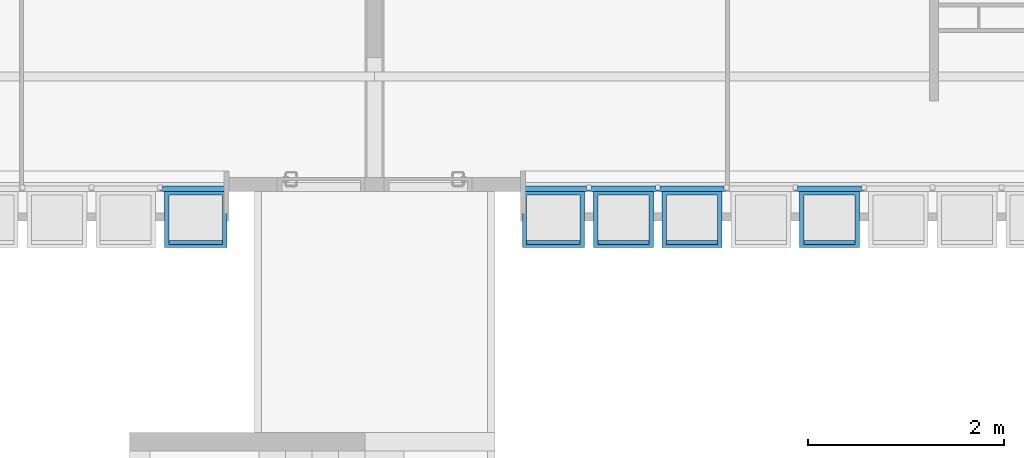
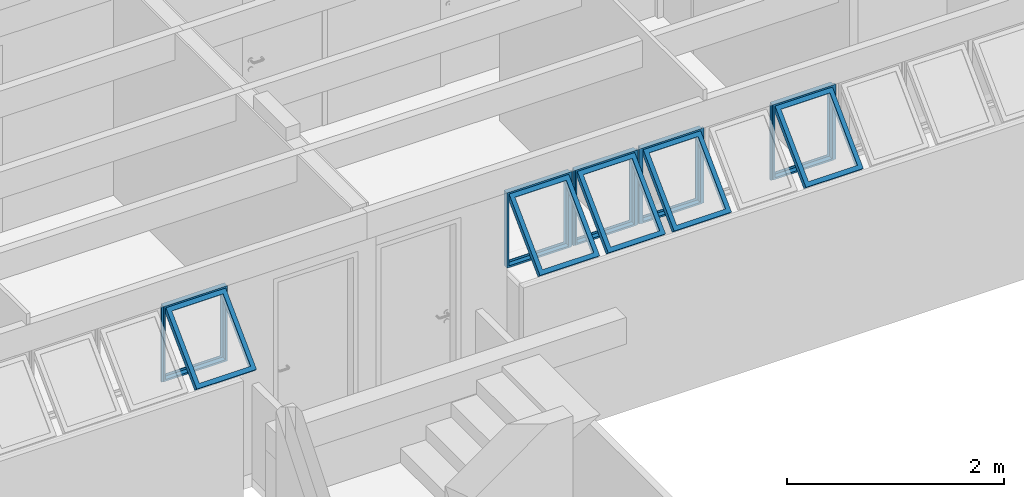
# One storey, part 31 of 37: 5 building element parts, 7 elements without a shape of their own.
"""IFC2X3 building model written with IfcOpenShell, lengths in millimetres."""

import ifcopenshell
import ifcopenshell.guid

model = None  # the IFC model being written
_history = None  # IfcOwnerHistory: only IFC2X3 demands one
_inside = {}  # id of a spatial element -> (the spatial element, [elements in it])
_under = {}  # id of a project, library or spatial element -> (it, [spatial elements below it])
_declared = {}  # id of a project -> (the project, [libraries it declares])
_typed = {}  # id of a type object -> (the type object, [elements of that type])
_made_of = {}  # id of a material, layer set ... -> (it, [elements and type objects made of it])


def new_model(schema):
    """Start an empty IFC model of exactly this schema.

    Asked for "IFC4X3", IfcOpenShell would pick the latest addendum, in which some entities
    have other attributes; the version numbers below select the first issue.
    IFC2X3 requires an IfcOwnerHistory on every rooted entity: one is made here for all.
    """
    global model, _history
    if schema == "IFC4X3":
        model = ifcopenshell.file(schema_version=(4, 3, 0, 0))
    else:
        model = ifcopenshell.file(schema=schema)
    _inside.clear()
    _under.clear()
    _declared.clear()
    _typed.clear()
    _made_of.clear()
    _history = None
    if model.schema == "IFC2X3":
        org = make("IfcOrganization", Name="unknown")
        user = make(
            "IfcPersonAndOrganization",
            ThePerson=make("IfcPerson", FamilyName="unknown"),
            TheOrganization=org,
        )
        app = make(
            "IfcApplication",
            ApplicationDeveloper=org,
            Version="unknown",
            ApplicationFullName="unknown",
            ApplicationIdentifier="unknown",
        )
        _history = make(
            "IfcOwnerHistory",
            OwningUser=user,
            OwningApplication=app,
            ChangeAction="ADDED",
            CreationDate=0,
        )
    return model


def make(cls, **values):
    """One entity of the class cls with the attributes given. An attribute that is None is left unset."""
    return model.create_entity(
        cls, **{name: value for name, value in values.items() if value is not None}
    )


def entity(cls, *values):
    """Any entity or typed value of the class cls, its attributes in the order of the schema. None: left unset."""
    e = model.create_entity(cls)
    for i, value in enumerate(values):
        if value is not None:
            e[i] = value
    return e


def rooted(cls, **values):
    """An entity with a GlobalId (a new one), such as an element, a storey or a relation."""
    return make(cls, GlobalId=ifcopenshell.guid.new(), OwnerHistory=_history, **values)


def si_unit(unit_type, name, prefix=None):
    """IfcSIUnit, for example si_unit("LENGTHUNIT", "METRE", prefix="MILLI")."""
    return make("IfcSIUnit", UnitType=unit_type, Prefix=prefix, Name=name)


def converted_unit(unit_type, name, factor, base, dimensions=None, offset=None):
    """IfcConversionBasedUnit, such as the inch: factor (a typed value) times the base unit."""
    return make(
        "IfcConversionBasedUnit"
        if offset is None
        else "IfcConversionBasedUnitWithOffset",
        ConversionOffset=offset,
        Dimensions=None
        if dimensions is None
        else entity("IfcDimensionalExponents", *dimensions),
        UnitType=unit_type,
        Name=name,
        ConversionFactor=make(
            "IfcMeasureWithUnit", ValueComponent=factor, UnitComponent=base
        ),
    )


def derived_unit(unit_type, elements):
    """IfcDerivedUnit: a product of units, each with its exponent."""
    return make(
        "IfcDerivedUnit",
        Elements=[
            make("IfcDerivedUnitElement", Unit=unit, Exponent=power)
            for unit, power in elements
        ],
        UnitType=unit_type,
    )


def money_unit(currency):
    """IfcMonetaryUnit."""
    return make("IfcMonetaryUnit", Currency=currency)


def assignment(units):
    """IfcUnitAssignment: the units of a project."""
    return None if units is None else make("IfcUnitAssignment", Units=units)


def point(xyz):
    """IfcCartesianPoint."""
    return None if xyz is None else make("IfcCartesianPoint", Coordinates=xyz)


def direction(xyz):
    """IfcDirection."""
    return None if xyz is None else make("IfcDirection", DirectionRatios=xyz)


def frame(location, z_axis=None, x_axis=None):
    """IfcAxis2Placement3D, a coordinate frame: its origin and axes. An axis left out is left unset."""
    return make(
        "IfcAxis2Placement3D",
        Location=point(location),
        Axis=direction(z_axis),
        RefDirection=direction(x_axis),
    )


def origin_with_axes():
    """The frame at (0, 0, 0) with the z axis (0, 0, 1) and the x axis (1, 0, 0) written out."""
    return frame((0.0, 0.0, 0.0), z_axis=(0.0, 0.0, 1.0), x_axis=(1.0, 0.0, 0.0))


def place(relative_to, where):
    """IfcLocalPlacement: puts the frame where relative to a parent placement (None: the world)."""
    return make(
        "IfcLocalPlacement", PlacementRelTo=relative_to, RelativePlacement=where
    )


def context(
    kind, dimensions, precision=None, world=None, true_north=None, identifier=None
):
    """IfcGeometricRepresentationContext, for example the 3D "Model" context."""
    return make(
        "IfcGeometricRepresentationContext",
        ContextIdentifier=identifier,
        ContextType=kind,
        CoordinateSpaceDimension=dimensions,
        Precision=precision,
        WorldCoordinateSystem=world,
        TrueNorth=true_north,
    )


def subcontext(parent, identifier, kind, view, scale=None):
    """IfcGeometricRepresentationSubContext, for example "Body" below "Model"."""
    return make(
        "IfcGeometricRepresentationSubContext",
        ContextIdentifier=identifier,
        ContextType=kind,
        ParentContext=parent,
        TargetScale=scale,
        TargetView=view,
    )


def project(units=None, contexts=None):
    """IfcProject with its units and contexts."""
    return rooted(
        "IfcProject",
        Name="project",
        RepresentationContexts=contexts,
        UnitsInContext=assignment(units),
    )


def spatial(cls, under=None, at=None, **own):
    """A site, building, storey or space (cls), placed at a placement, below another one or the project."""
    s = rooted(cls, ObjectPlacement=at, **own)
    if under is not None:
        _under.setdefault(under.id(), (under, []))[1].append(s)
    return s


def faces_of(points, faces, orient=None, outer=None):
    """IfcFace entities. A face is a list of loops; a loop is a list of indices into points, from 0.

    orient and outer hold one flag for each loop. By default every Orientation is true, the
    first loop of a face is its IfcFaceOuterBound and the others are IfcFaceBound.
    """
    made = []
    for i, loops in enumerate(faces):
        bounds = []
        for j, loop in enumerate(loops):
            is_outer = j == 0 if outer is None else outer[i][j]
            bounds.append(
                make(
                    "IfcFaceOuterBound" if is_outer else "IfcFaceBound",
                    Bound=make("IfcPolyLoop", Polygon=[points[k] for k in loop]),
                    Orientation=True if orient is None else orient[i][j],
                )
            )
        made.append(make("IfcFace", Bounds=bounds))
    return made


def faceted_brep(points, faces, orient=None, outer=None, voids=None):
    """IfcFacetedBrep: a solid bounded by flat faces; with voids (closed shells), ...WithVoids."""
    shared = [point(p) for p in points]
    hull = make("IfcClosedShell", CfsFaces=faces_of(shared, faces, orient, outer))
    if voids is None:
        return make("IfcFacetedBrep", Outer=hull)
    return make(
        "IfcFacetedBrepWithVoids",
        Outer=hull,
        Voids=[
            make(cls, CfsFaces=faces_of(shared, fs, o, b)) for cls, fs, o, b in voids
        ],
    )


def shape(context_of_items, identifier, shape_type, items):
    """IfcShapeRepresentation: the items that make up one representation, for example the "Body"."""
    return make(
        "IfcShapeRepresentation",
        ContextOfItems=context_of_items,
        RepresentationIdentifier=identifier,
        RepresentationType=shape_type,
        Items=items,
    )


def source(mapping_origin, context_of_items, identifier, shape_type, items):
    """IfcRepresentationMap: a shape defined once, which mapped items show again and again."""
    return make(
        "IfcRepresentationMap",
        MappingOrigin=mapping_origin,
        MappedRepresentation=shape(context_of_items, identifier, shape_type, items),
    )


def transform(
    local_origin,
    x_axis=None,
    y_axis=None,
    z_axis=None,
    scale=None,
    scale2=None,
    scale3=None,
    uniform=True,
):
    """IfcCartesianTransformationOperator3D, or its non-uniform kind. x_axis, y_axis, z_axis: its Axis1, 2, 3."""
    if uniform:
        return make(
            "IfcCartesianTransformationOperator3D",
            Axis1=direction(x_axis),
            Axis2=direction(y_axis),
            LocalOrigin=point(local_origin),
            Scale=scale,
            Axis3=direction(z_axis),
        )
    return make(
        "IfcCartesianTransformationOperator3DnonUniform",
        Axis1=direction(x_axis),
        Axis2=direction(y_axis),
        LocalOrigin=point(local_origin),
        Scale=scale,
        Axis3=direction(z_axis),
        Scale2=scale2,
        Scale3=scale3,
    )


def mapped(mapping_source, mapping_target):
    """IfcMappedItem: shows the shape of a source again, moved by a transform."""
    return make(
        "IfcMappedItem", MappingSource=mapping_source, MappingTarget=mapping_target
    )


def material(Name=None, Category=None):
    """IfcMaterial."""
    return make("IfcMaterial", Name=Name, Category=Category)


def made_of(thing, what):
    """Note that an element or type object is made of a material, layer set ...; save() writes the relation."""
    if what is not None:
        _made_of.setdefault(what.id(), (what, []))[1].append(thing)
    return thing


def type_object(cls, material=None, **own):
    """A type object (cls), such as IfcWallType, which elements share."""
    return made_of(rooted(cls, **own), material)


def element(
    cls,
    number,
    at=None,
    inside=None,
    cuts=None,
    type_object=None,
    material=None,
    context=None,
    identifier="Body",
    shape_type=None,
    held_by="IfcProductDefinitionShape",
    body=None,
    shapes=None,
    **own,
):
    """One element of the class cls, such as IfcWall. Its Tag is "e" and its number.

    at: its placement. inside: the storey or other place that contains it. cuts: it is an
    opening in that element (IfcRelVoidsElement). A single representation is given by context,
    identifier, shape_type and body (its items); several are given by shapes. held_by: the class
    of the entity that holds the representations. save() writes the other relations.
    """
    e = rooted(cls, Tag="e%d" % number, ObjectPlacement=at, **own)
    if body is not None:
        shapes = [shape(context, identifier, shape_type, body)]
    if shapes is not None:
        e.Representation = make(held_by, Representations=shapes)
    if inside is not None:
        _inside.setdefault(inside.id(), (inside, []))[1].append(e)
    if cuts is not None:
        rooted(
            "IfcRelVoidsElement", RelatingBuildingElement=cuts, RelatedOpeningElement=e
        )
    if type_object is not None:
        _typed.setdefault(type_object.id(), (type_object, []))[1].append(e)
    return made_of(e, material)


def aggregate(whole, parts):
    """IfcRelAggregates: a whole, such as a stair, and the parts it consists of."""
    return rooted("IfcRelAggregates", RelatingObject=whole, RelatedObjects=parts)


def save(model, path):
    """Write the relations noted so far, then the file.

    IfcRelAggregates (storeys below a building ...), IfcRelContainedInSpatialStructure (elements
    in a storey), IfcRelDefinesByType, IfcRelAssociatesMaterial and IfcRelDeclares: one each for
    every whole, place, type object, material and project.
    """
    for whole, parts in _under.values():
        aggregate(whole, parts)
    for where, things in _inside.values():
        rooted(
            "IfcRelContainedInSpatialStructure",
            RelatedElements=things,
            RelatingStructure=where,
        )
    for kind, things in _typed.values():
        rooted("IfcRelDefinesByType", RelatedObjects=things, RelatingType=kind)
    for what, things in _made_of.values():
        rooted("IfcRelAssociatesMaterial", RelatedObjects=things, RelatingMaterial=what)
    for by, libraries in _declared.values():
        rooted("IfcRelDeclares", RelatingContext=by, RelatedDefinitions=libraries)
    model.write(path)


model = new_model("IFC2X3")

# Units and contexts
model_context = context("Model", 3, precision=0.01, world=origin_with_axes(), true_north=direction((0.0, 1.0)))
body_context = subcontext(model_context, "Body", "Model", "MODEL_VIEW")
ifc_project = project(units=[si_unit("LENGTHUNIT", "METRE", prefix="MILLI"), si_unit("AREAUNIT", "SQUARE_METRE"), si_unit("VOLUMEUNIT", "CUBIC_METRE"), converted_unit("PLANEANGLEUNIT", "DEGREE", entity("IfcPlaneAngleMeasure", 0.0174532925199), si_unit("PLANEANGLEUNIT", "RADIAN"), dimensions=[0, 0, 0, 0, 0, 0, 0]), money_unit("USD"), converted_unit("TIMEUNIT", "Year", entity("IfcTimeMeasure", 31556926.0), si_unit("TIMEUNIT", "SECOND"), dimensions=[0, 0, 1, 0, 0, 0, 0]), si_unit("MASSUNIT", "GRAM", prefix="KILO"), si_unit("THERMODYNAMICTEMPERATUREUNIT", "DEGREE_CELSIUS"), si_unit("LUMINOUSINTENSITYUNIT", "LUMEN"), si_unit("ENERGYUNIT", "JOULE", prefix="MEGA"), derived_unit("THERMALCONDUCTANCEUNIT", [(si_unit("POWERUNIT", "WATT"), 1), (si_unit("LENGTHUNIT", "METRE"), -1), (si_unit("THERMODYNAMICTEMPERATUREUNIT", "KELVIN"), -1)]), derived_unit("SPECIFICHEATCAPACITYUNIT", [(si_unit("ENERGYUNIT", "JOULE"), 1), (si_unit("MASSUNIT", "GRAM", prefix="KILO"), -1), (si_unit("THERMODYNAMICTEMPERATUREUNIT", "KELVIN"), -1)]), derived_unit("MASSDENSITYUNIT", [(si_unit("MASSUNIT", "GRAM", prefix="KILO"), 1), (si_unit("VOLUMEUNIT", "CUBIC_METRE"), -1)])], contexts=[model_context])

# Site, building, storey
site_placement = place(None, origin_with_axes())
site = spatial("IfcSite", under=ifc_project, at=site_placement, Name="Local", CompositionType="ELEMENT")
building_placement = place(site_placement, origin_with_axes())
building = spatial("IfcBuilding", under=site, at=building_placement, Name="Construção", CompositionType="ELEMENT")
storey_placement = place(building_placement, origin_with_axes())
storey = spatial("IfcBuildingStorey", under=building, at=storey_placement, Name="Primeiro Pavimento", CompositionType="ELEMENT", Elevation=0.0)

# Window, plates, building element parts
window_style = type_object("IfcWindowStyle", Name="Tipo de Parede Cortina", ConstructionType="NOTDEFINED", OperationType="NOTDEFINED", ParameterTakesPrecedence=False, Sizeable=False)
window_1_placement = place(storey_placement, frame((12020.0, 17910.0, 1355.00007107), z_axis=(0.0, 0.0, 1.0), x_axis=(1.0, 0.0, 0.0)))
window_1 = element("IfcWindow", 1, at=window_1_placement, inside=storey, type_object=window_style, Name="APTO4-JANELA-000")
plate_type_1 = type_object("IfcPlateType", Name="Painel Principal 690 x 845 x 20", PredefinedType="CURTAIN_PANEL")
plate_1_placement = place(window_1_placement, frame((0.0, 0.0, 422.499964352), z_axis=(0.0, 0.0, 1.0), x_axis=(1.0, 0.0, 0.0)))
plate_1 = element("IfcPlate", 2, at=plate_1_placement, type_object=plate_type_1, Name="APTO4-Painel-Prin-013")
ifc_material = material(Name="Alumínio")
shared_shape_1 = source(origin_with_axes(), body_context, "Body", "Brep", [
    faceted_brep([(-25.0000036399, 0.0, -40.0), (-25.0000036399, 0.0, -35.0), (-674.999997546, 0.0, -35.0), (-674.999997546, 0.0, -40.0), (-70.0000036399, 45.0, -40.0), (-70.0000036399, 45.0, -35.0), (-629.999997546, 45.0, -35.0), (-629.999997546, 45.0, -40.0)], [[[0, 1, 2, 3]], [[4, 5, 1, 0]], [[1, 5, 6, 2]], [[3, 2, 6, 7]], [[0, 3, 7, 4]], [[7, 6, 5, 4]]]),
    faceted_brep([(-674.999997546, 0.0, -40.0), (-674.999997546, 0.0, -35.0), (-674.999997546, 844.999891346, -35.0), (-674.999997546, 844.999891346, -40.0), (-629.999997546, 45.0, -40.0), (-629.999997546, 45.0, -35.0), (-629.999997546, 799.999891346, -35.0), (-629.999997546, 799.999891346, -40.0)], [[[0, 1, 2, 3]], [[4, 5, 1, 0]], [[1, 5, 6, 2]], [[3, 2, 6, 7]], [[0, 3, 7, 4]], [[7, 6, 5, 4]]]),
    faceted_brep([(-25.0000036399, 844.999891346, -40.0), (-25.0000036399, 844.999891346, -35.0), (-70.0000036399, 799.999891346, -35.0), (-70.0000036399, 799.999891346, -40.0), (-674.999997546, 844.999891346, -40.0), (-674.999997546, 844.999891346, -35.0), (-629.999997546, 799.999891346, -35.0), (-629.999997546, 799.999891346, -40.0)], [[[0, 1, 2, 3]], [[4, 5, 1, 0]], [[1, 5, 6, 2]], [[3, 2, 6, 7]], [[0, 3, 7, 4]], [[7, 6, 5, 4]]]),
    faceted_brep([(-25.0000036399, 0.0, -40.0), (-25.0000036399, 0.0, -35.0), (-70.0000036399, 45.0, -35.0), (-70.0000036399, 45.0, -40.0), (-25.0000036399, 844.999891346, -40.0), (-25.0000036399, 844.999891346, -35.0), (-70.0000036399, 799.999891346, -35.0), (-70.0000036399, 799.999891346, -40.0)], [[[0, 1, 2, 3]], [[4, 5, 1, 0]], [[1, 5, 6, 2]], [[3, 2, 6, 7]], [[0, 3, 7, 4]], [[7, 6, 5, 4]]]),
    faceted_brep([(-25.0000036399, 0.0, -35.0), (-25.0000036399, 0.0, 15.0), (-674.999997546, 0.0, 15.0), (-674.999997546, 0.0, -35.0), (-45.0000036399, 20.0, -35.0), (-45.0000036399, 20.0, 15.0), (-654.999997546, 20.0, 15.0), (-654.999997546, 20.0, -35.0)], [[[0, 1, 2, 3]], [[4, 5, 1, 0]], [[1, 5, 6, 2]], [[3, 2, 6, 7]], [[0, 3, 7, 4]], [[7, 6, 5, 4]]]),
    faceted_brep([(-674.999997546, 0.0, -35.0), (-674.999997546, 0.0, 15.0), (-674.999997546, 844.999891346, 15.0), (-674.999997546, 844.999891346, -35.0), (-654.999997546, 20.0, -35.0), (-654.999997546, 20.0, 15.0), (-654.999997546, 824.999891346, 15.0), (-654.999997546, 824.999891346, -35.0)], [[[0, 1, 2, 3]], [[4, 5, 1, 0]], [[1, 5, 6, 2]], [[3, 2, 6, 7]], [[0, 3, 7, 4]], [[7, 6, 5, 4]]]),
    faceted_brep([(-25.0000036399, 844.999891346, -35.0), (-25.0000036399, 844.999891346, 15.0), (-45.0000036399, 824.999891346, 15.0), (-45.0000036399, 824.999891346, -35.0), (-674.999997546, 844.999891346, -35.0), (-674.999997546, 844.999891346, 15.0), (-654.999997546, 824.999891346, 15.0), (-654.999997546, 824.999891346, -35.0)], [[[0, 1, 2, 3]], [[4, 5, 1, 0]], [[1, 5, 6, 2]], [[3, 2, 6, 7]], [[0, 3, 7, 4]], [[7, 6, 5, 4]]]),
    faceted_brep([(-25.0000036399, 0.0, -35.0), (-25.0000036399, 0.0, 15.0), (-45.0000036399, 20.0, 15.0), (-45.0000036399, 20.0, -35.0), (-25.0000036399, 844.999891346, -35.0), (-25.0000036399, 844.999891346, 15.0), (-45.0000036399, 824.999891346, 15.0), (-45.0000036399, 824.999891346, -35.0)], [[[0, 1, 2, 3]], [[4, 5, 1, 0]], [[1, 5, 6, 2]], [[3, 2, 6, 7]], [[0, 3, 7, 4]], [[7, 6, 5, 4]]]),
    faceted_brep([(-694.999995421, 0.0, -10.0), (-694.999995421, 0.0, 10.0), (-694.999995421, 844.999891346, 10.0), (-694.999995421, 844.999891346, -10.0), (-674.999997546, 0.0, -10.0), (-674.999997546, 0.0, 10.0), (-674.999997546, 844.999891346, 10.0), (-674.999997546, 844.999891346, -10.0)], [[[0, 1, 2, 3]], [[4, 5, 1, 0]], [[1, 5, 6, 2]], [[3, 2, 6, 7]], [[0, 3, 7, 4]], [[7, 6, 5, 4]]]),
    faceted_brep([(-5.00000576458, 844.999891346, -10.0), (-5.00000576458, 844.999891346, 10.0), (-5.00000576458, 0.0, 10.0), (-5.00000576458, 0.0, -10.0), (-25.0000036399, 844.999891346, -10.0), (-25.0000036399, 844.999891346, 10.0), (-25.0000036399, 0.0, 10.0), (-25.0000036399, 0.0, -10.0)], [[[0, 1, 2, 3]], [[4, 5, 1, 0]], [[1, 5, 6, 2]], [[3, 2, 6, 7]], [[0, 3, 7, 4]], [[7, 6, 5, 4]]]),
    faceted_brep([(-90.0000036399, 252.243475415, 517.045737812), (-90.0000036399, 291.13434838, 555.936610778), (-90.0000036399, 796.715620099, 50.3553390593), (-90.0000036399, 757.824747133, 11.4644660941), (-45.0000036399, 220.423670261, 548.865542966), (-45.0000036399, 259.314543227, 587.756415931), (-45.0000036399, 828.535425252, 18.5355339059), (-45.0000036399, 789.644552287, -20.3553390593)], [[[0, 1, 2, 3]], [[4, 5, 1, 0]], [[1, 5, 6, 2]], [[3, 2, 6, 7]], [[0, 3, 7, 4]], [[7, 6, 5, 4]]]),
    faceted_brep([(-654.999997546, 220.423670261, 548.865542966), (-654.999997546, 259.314543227, 587.756415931), (-654.999997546, 828.535425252, 18.5355339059), (-654.999997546, 789.644552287, -20.3553390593), (-609.999997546, 252.243475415, 517.045737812), (-609.999997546, 291.13434838, 555.936610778), (-609.999997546, 796.715620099, 50.3553390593), (-609.999997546, 757.824747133, 11.4644660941)], [[[0, 1, 2, 3]], [[4, 5, 1, 0]], [[1, 5, 6, 2]], [[3, 2, 6, 7]], [[0, 3, 7, 4]], [[7, 6, 5, 4]]]),
    faceted_brep([(-654.999997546, 220.423670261, 548.865542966), (-654.999997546, 259.314543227, 587.756415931), (-609.999997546, 291.13434838, 555.936610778), (-609.999997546, 252.243475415, 517.045737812), (-45.0000036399, 220.423670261, 548.865542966), (-45.0000036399, 259.314543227, 587.756415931), (-90.0000036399, 291.13434838, 555.936610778), (-90.0000036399, 252.243475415, 517.045737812)], [[[0, 1, 2, 3]], [[4, 5, 1, 0]], [[1, 5, 6, 2]], [[3, 2, 6, 7]], [[0, 3, 7, 4]], [[7, 6, 5, 4]]]),
    faceted_brep([(-45.0000036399, 789.644552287, -20.3553390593), (-45.0000036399, 828.535425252, 18.5355339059), (-90.0000036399, 796.715620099, 50.3553390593), (-90.0000036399, 757.824747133, 11.4644660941), (-654.999997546, 789.644552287, -20.3553390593), (-654.999997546, 828.535425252, 18.5355339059), (-609.999997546, 796.715620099, 50.3553390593), (-609.999997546, 757.824747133, 11.4644660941)], [[[0, 1, 2, 3]], [[4, 5, 1, 0]], [[1, 5, 6, 2]], [[3, 2, 6, 7]], [[0, 3, 7, 4]], [[7, 6, 5, 4]]]),
])
building_element_part_1_placement = place(plate_1_placement, origin_with_axes())
building_element_part_1 = element("IfcBuildingElementPart", 3, at=building_element_part_1_placement, material=ifc_material, Name="Alumínio", context=body_context, shape_type="MappedRepresentation", body=[
    mapped(shared_shape_1, transform((350.0, 0.0, -422.499964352), x_axis=(1.0, 0.0, 0.0), y_axis=(0.0, 0.0, 1.0), z_axis=(0.0, -1.0, 0.0))),
])
aggregate(plate_1, [building_element_part_1])
plate_2_placement = place(window_1_placement, frame((-2100.0, 0.0, 422.499964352), z_axis=(0.0, 0.0, 1.0), x_axis=(1.0, 0.0, 0.0)))
plate_2 = element("IfcPlate", 4, at=plate_2_placement, type_object=plate_type_1, Name="APTO4-Painel-Prin-029")
building_element_part_2_placement = place(plate_2_placement, origin_with_axes())
building_element_part_2 = element("IfcBuildingElementPart", 5, at=building_element_part_2_placement, material=ifc_material, Name="Alumínio", context=body_context, shape_type="MappedRepresentation", body=[
    mapped(shared_shape_1, transform((350.0, 0.0, -422.499964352), x_axis=(1.0, 0.0, 0.0), y_axis=(0.0, 0.0, 1.0), z_axis=(0.0, -1.0, 0.0))),
])
aggregate(plate_2, [building_element_part_2])
plate_3_placement = place(window_1_placement, frame((-1400.0, 0.0, 422.499964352), z_axis=(0.0, 0.0, 1.0), x_axis=(1.0, 0.0, 0.0)))
plate_3 = element("IfcPlate", 6, at=plate_3_placement, type_object=plate_type_1, Name="APTO4-Painel-Prin-025")
shared_shape_2 = source(origin_with_axes(), body_context, "Body", "Brep", [
    faceted_brep([(-25.0000036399, 0.0, -40.0), (-25.0000036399, 0.0, -35.0), (-674.999997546, 0.0, -35.0), (-674.999997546, 0.0, -40.0), (-70.0000036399, 45.0, -40.0), (-70.0000036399, 45.0, -35.0), (-629.999997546, 45.0, -35.0), (-629.999997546, 45.0, -40.0)], [[[0, 1, 2, 3]], [[4, 5, 1, 0]], [[1, 5, 6, 2]], [[3, 2, 6, 7]], [[0, 3, 7, 4]], [[7, 6, 5, 4]]]),
    faceted_brep([(-674.999997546, 0.0, -40.0), (-674.999997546, 0.0, -35.0), (-674.999997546, 844.999891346, -35.0), (-674.999997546, 844.999891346, -40.0), (-629.999997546, 45.0, -40.0), (-629.999997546, 45.0, -35.0), (-629.999997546, 799.999891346, -35.0), (-629.999997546, 799.999891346, -40.0)], [[[0, 1, 2, 3]], [[4, 5, 1, 0]], [[1, 5, 6, 2]], [[3, 2, 6, 7]], [[0, 3, 7, 4]], [[7, 6, 5, 4]]]),
    faceted_brep([(-25.0000036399, 844.999891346, -40.0), (-25.0000036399, 844.999891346, -35.0), (-70.0000036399, 799.999891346, -35.0), (-70.0000036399, 799.999891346, -40.0), (-674.999997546, 844.999891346, -40.0), (-674.999997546, 844.999891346, -35.0), (-629.999997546, 799.999891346, -35.0), (-629.999997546, 799.999891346, -40.0)], [[[0, 1, 2, 3]], [[4, 5, 1, 0]], [[1, 5, 6, 2]], [[3, 2, 6, 7]], [[0, 3, 7, 4]], [[7, 6, 5, 4]]]),
    faceted_brep([(-25.0000036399, 0.0, -40.0), (-25.0000036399, 0.0, -35.0), (-70.0000036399, 45.0, -35.0), (-70.0000036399, 45.0, -40.0), (-25.0000036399, 844.999891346, -40.0), (-25.0000036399, 844.999891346, -35.0), (-70.0000036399, 799.999891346, -35.0), (-70.0000036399, 799.999891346, -40.0)], [[[0, 1, 2, 3]], [[4, 5, 1, 0]], [[1, 5, 6, 2]], [[3, 2, 6, 7]], [[0, 3, 7, 4]], [[7, 6, 5, 4]]]),
    faceted_brep([(-25.0000036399, 0.0, -35.0), (-25.0000036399, 0.0, 15.0), (-674.999997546, 0.0, 15.0), (-674.999997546, 0.0, -35.0), (-45.0000036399, 20.0, -35.0), (-45.0000036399, 20.0, 15.0), (-654.999997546, 20.0, 15.0), (-654.999997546, 20.0, -35.0)], [[[0, 1, 2, 3]], [[4, 5, 1, 0]], [[1, 5, 6, 2]], [[3, 2, 6, 7]], [[0, 3, 7, 4]], [[7, 6, 5, 4]]]),
    faceted_brep([(-674.999997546, 0.0, -35.0), (-674.999997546, 0.0, 15.0), (-674.999997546, 844.999891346, 15.0), (-674.999997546, 844.999891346, -35.0), (-654.999997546, 20.0, -35.0), (-654.999997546, 20.0, 15.0), (-654.999997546, 824.999891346, 15.0), (-654.999997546, 824.999891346, -35.0)], [[[0, 1, 2, 3]], [[4, 5, 1, 0]], [[1, 5, 6, 2]], [[3, 2, 6, 7]], [[0, 3, 7, 4]], [[7, 6, 5, 4]]]),
    faceted_brep([(-25.0000036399, 844.999891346, -35.0), (-25.0000036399, 844.999891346, 15.0), (-45.0000036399, 824.999891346, 15.0), (-45.0000036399, 824.999891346, -35.0), (-674.999997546, 844.999891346, -35.0), (-674.999997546, 844.999891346, 15.0), (-654.999997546, 824.999891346, 15.0), (-654.999997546, 824.999891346, -35.0)], [[[0, 1, 2, 3]], [[4, 5, 1, 0]], [[1, 5, 6, 2]], [[3, 2, 6, 7]], [[0, 3, 7, 4]], [[7, 6, 5, 4]]]),
    faceted_brep([(-25.0000036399, 0.0, -35.0), (-25.0000036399, 0.0, 15.0), (-45.0000036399, 20.0, 15.0), (-45.0000036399, 20.0, -35.0), (-25.0000036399, 844.999891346, -35.0), (-25.0000036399, 844.999891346, 15.0), (-45.0000036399, 824.999891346, 15.0), (-45.0000036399, 824.999891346, -35.0)], [[[0, 1, 2, 3]], [[4, 5, 1, 0]], [[1, 5, 6, 2]], [[3, 2, 6, 7]], [[0, 3, 7, 4]], [[7, 6, 5, 4]]]),
    faceted_brep([(-694.999995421, 0.0, -10.0), (-694.999995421, 0.0, 10.0), (-694.999995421, 844.999891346, 10.0), (-694.999995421, 844.999891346, -10.0), (-674.999997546, 0.0, -10.0), (-674.999997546, 0.0, 10.0), (-674.999997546, 844.999891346, 10.0), (-674.999997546, 844.999891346, -10.0)], [[[0, 1, 2, 3]], [[4, 5, 1, 0]], [[1, 5, 6, 2]], [[3, 2, 6, 7]], [[0, 3, 7, 4]], [[7, 6, 5, 4]]]),
    faceted_brep([(-5.00000576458, 844.999891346, -10.0), (-5.00000576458, 844.999891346, 10.0), (-5.00000576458, 0.0, 10.0), (-5.00000576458, 0.0, -10.0), (-25.0000036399, 844.999891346, -10.0), (-25.0000036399, 844.999891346, 10.0), (-25.0000036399, 0.0, 10.0), (-25.0000036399, 0.0, -10.0)], [[[0, 1, 2, 3]], [[4, 5, 1, 0]], [[1, 5, 6, 2]], [[3, 2, 6, 7]], [[0, 3, 7, 4]], [[7, 6, 5, 4]]]),
    faceted_brep([(-90.0000036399, 252.243475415, 517.045737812), (-90.0000036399, 291.13434838, 555.936610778), (-90.0000036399, 796.715620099, 50.3553390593), (-90.0000036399, 757.824747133, 11.4644660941), (-45.0000036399, 220.423670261, 548.865542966), (-45.0000036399, 259.314543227, 587.756415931), (-45.0000036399, 828.535425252, 18.5355339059), (-45.0000036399, 789.644552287, -20.3553390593)], [[[0, 1, 2, 3]], [[4, 5, 1, 0]], [[1, 5, 6, 2]], [[3, 2, 6, 7]], [[0, 3, 7, 4]], [[7, 6, 5, 4]]]),
    faceted_brep([(-654.999997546, 220.423670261, 548.865542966), (-654.999997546, 259.314543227, 587.756415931), (-654.999997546, 828.535425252, 18.5355339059), (-654.999997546, 789.644552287, -20.3553390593), (-609.999997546, 252.243475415, 517.045737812), (-609.999997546, 291.13434838, 555.936610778), (-609.999997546, 796.715620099, 50.3553390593), (-609.999997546, 757.824747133, 11.4644660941)], [[[0, 1, 2, 3]], [[4, 5, 1, 0]], [[1, 5, 6, 2]], [[3, 2, 6, 7]], [[0, 3, 7, 4]], [[7, 6, 5, 4]]]),
    faceted_brep([(-654.999997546, 220.423670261, 548.865542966), (-654.999997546, 259.314543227, 587.756415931), (-609.999997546, 291.13434838, 555.936610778), (-609.999997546, 252.243475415, 517.045737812), (-45.0000036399, 220.423670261, 548.865542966), (-45.0000036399, 259.314543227, 587.756415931), (-90.0000036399, 291.13434838, 555.936610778), (-90.0000036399, 252.243475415, 517.045737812)], [[[0, 1, 2, 3]], [[4, 5, 1, 0]], [[1, 5, 6, 2]], [[3, 2, 6, 7]], [[0, 3, 7, 4]], [[7, 6, 5, 4]]]),
    faceted_brep([(-45.0000036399, 789.644552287, -20.3553390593), (-45.0000036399, 828.535425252, 18.5355339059), (-90.0000036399, 796.715620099, 50.3553390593), (-90.0000036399, 757.824747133, 11.4644660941), (-654.999997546, 789.644552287, -20.3553390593), (-654.999997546, 828.535425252, 18.5355339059), (-609.999997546, 796.715620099, 50.3553390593), (-609.999997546, 757.824747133, 11.4644660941)], [[[0, 1, 2, 3]], [[4, 5, 1, 0]], [[1, 5, 6, 2]], [[3, 2, 6, 7]], [[0, 3, 7, 4]], [[7, 6, 5, 4]]]),
])
building_element_part_3_placement = place(plate_3_placement, origin_with_axes())
building_element_part_3 = element("IfcBuildingElementPart", 7, at=building_element_part_3_placement, material=ifc_material, Name="Alumínio", context=body_context, shape_type="MappedRepresentation", body=[
    mapped(shared_shape_2, transform((350.0, 0.0, -422.499964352), x_axis=(1.0, 0.0, 0.0), y_axis=(0.0, 0.0, 1.0), z_axis=(0.0, -1.0, 0.0))),
])
aggregate(plate_3, [building_element_part_3])
plate_type_2 = type_object("IfcPlateType", Name="Painel Principal 695 x 845 x 20", PredefinedType="CURTAIN_PANEL")
plate_4_placement = place(window_1_placement, frame((-2800.0, 0.0, 422.499986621), z_axis=(0.0, 0.0, 1.0), x_axis=(1.0, 0.0, 0.0)))
plate_4 = element("IfcPlate", 8, at=plate_4_placement, type_object=plate_type_2, Name="APTO4-Painel-Prin-020")
aggregate(window_1, [plate_1, plate_2, plate_3, plate_4])
shared_shape_3 = source(origin_with_axes(), body_context, "Body", "Brep", [
    faceted_brep([(-25.0000062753, 0.0, -40.0), (-25.0000062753, 0.0, -35.0), (-699.999999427, 0.0, -35.0), (-699.999999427, 0.0, -40.0), (-70.0000062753, 45.0, -40.0), (-70.0000062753, 45.0, -35.0), (-654.999999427, 45.0, -35.0), (-654.999999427, 45.0, -40.0)], [[[0, 1, 2, 3]], [[4, 5, 1, 0]], [[1, 5, 6, 2]], [[3, 2, 6, 7]], [[0, 3, 7, 4]], [[7, 6, 5, 4]]]),
    faceted_brep([(-699.999999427, 0.0, -40.0), (-699.999999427, 0.0, -35.0), (-699.999999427, 844.999980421, -35.0), (-699.999999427, 844.999980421, -40.0), (-654.999999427, 45.0, -40.0), (-654.999999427, 45.0, -35.0), (-654.999999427, 799.999980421, -35.0), (-654.999999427, 799.999980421, -40.0)], [[[0, 1, 2, 3]], [[4, 5, 1, 0]], [[1, 5, 6, 2]], [[3, 2, 6, 7]], [[0, 3, 7, 4]], [[7, 6, 5, 4]]]),
    faceted_brep([(-25.0000062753, 844.999980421, -40.0), (-25.0000062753, 844.999980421, -35.0), (-70.0000062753, 799.999980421, -35.0), (-70.0000062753, 799.999980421, -40.0), (-699.999999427, 844.999980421, -40.0), (-699.999999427, 844.999980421, -35.0), (-654.999999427, 799.999980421, -35.0), (-654.999999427, 799.999980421, -40.0)], [[[0, 1, 2, 3]], [[4, 5, 1, 0]], [[1, 5, 6, 2]], [[3, 2, 6, 7]], [[0, 3, 7, 4]], [[7, 6, 5, 4]]]),
    faceted_brep([(-25.0000062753, 0.0, -40.0), (-25.0000062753, 0.0, -35.0), (-70.0000062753, 45.0, -35.0), (-70.0000062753, 45.0, -40.0), (-25.0000062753, 844.999980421, -40.0), (-25.0000062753, 844.999980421, -35.0), (-70.0000062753, 799.999980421, -35.0), (-70.0000062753, 799.999980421, -40.0)], [[[0, 1, 2, 3]], [[4, 5, 1, 0]], [[1, 5, 6, 2]], [[3, 2, 6, 7]], [[0, 3, 7, 4]], [[7, 6, 5, 4]]]),
    faceted_brep([(-25.0000062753, 0.0, -35.0), (-25.0000062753, 0.0, 15.0), (-699.999999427, 0.0, 15.0), (-699.999999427, 0.0, -35.0), (-45.0000062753, 20.0, -35.0), (-45.0000062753, 20.0, 15.0), (-679.999999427, 20.0, 15.0), (-679.999999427, 20.0, -35.0)], [[[0, 1, 2, 3]], [[4, 5, 1, 0]], [[1, 5, 6, 2]], [[3, 2, 6, 7]], [[0, 3, 7, 4]], [[7, 6, 5, 4]]]),
    faceted_brep([(-699.999999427, 0.0, -35.0), (-699.999999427, 0.0, 15.0), (-699.999999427, 844.999980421, 15.0), (-699.999999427, 844.999980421, -35.0), (-679.999999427, 20.0, -35.0), (-679.999999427, 20.0, 15.0), (-679.999999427, 824.999980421, 15.0), (-679.999999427, 824.999980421, -35.0)], [[[0, 1, 2, 3]], [[4, 5, 1, 0]], [[1, 5, 6, 2]], [[3, 2, 6, 7]], [[0, 3, 7, 4]], [[7, 6, 5, 4]]]),
    faceted_brep([(-25.0000062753, 844.999980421, -35.0), (-25.0000062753, 844.999980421, 15.0), (-45.0000062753, 824.999980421, 15.0), (-45.0000062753, 824.999980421, -35.0), (-699.999999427, 844.999980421, -35.0), (-699.999999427, 844.999980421, 15.0), (-679.999999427, 824.999980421, 15.0), (-679.999999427, 824.999980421, -35.0)], [[[0, 1, 2, 3]], [[4, 5, 1, 0]], [[1, 5, 6, 2]], [[3, 2, 6, 7]], [[0, 3, 7, 4]], [[7, 6, 5, 4]]]),
    faceted_brep([(-25.0000062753, 0.0, -35.0), (-25.0000062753, 0.0, 15.0), (-45.0000062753, 20.0, 15.0), (-45.0000062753, 20.0, -35.0), (-25.0000062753, 844.999980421, -35.0), (-25.0000062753, 844.999980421, 15.0), (-45.0000062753, 824.999980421, 15.0), (-45.0000062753, 824.999980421, -35.0)], [[[0, 1, 2, 3]], [[4, 5, 1, 0]], [[1, 5, 6, 2]], [[3, 2, 6, 7]], [[0, 3, 7, 4]], [[7, 6, 5, 4]]]),
    faceted_brep([(-5.00000629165, 844.999980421, -10.0), (-5.00000629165, 844.999980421, 10.0), (-5.00000629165, 0.0, 10.0), (-5.00000629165, 0.0, -10.0), (-25.0000062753, 844.999980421, -10.0), (-25.0000062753, 844.999980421, 10.0), (-25.0000062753, 0.0, 10.0), (-25.0000062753, 0.0, -10.0)], [[[0, 1, 2, 3]], [[4, 5, 1, 0]], [[1, 5, 6, 2]], [[3, 2, 6, 7]], [[0, 3, 7, 4]], [[7, 6, 5, 4]]]),
    faceted_brep([(-90.0000062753, 252.243501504, 517.045800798), (-90.0000062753, 291.134374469, 555.936673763), (-90.0000062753, 796.715709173, 50.3553390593), (-90.0000062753, 757.824836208, 11.4644660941), (-45.0000062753, 220.423696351, 548.865605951), (-45.0000062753, 259.314569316, 587.756478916), (-45.0000062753, 828.535514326, 18.5355339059), (-45.0000062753, 789.644641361, -20.3553390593)], [[[0, 1, 2, 3]], [[4, 5, 1, 0]], [[1, 5, 6, 2]], [[3, 2, 6, 7]], [[0, 3, 7, 4]], [[7, 6, 5, 4]]]),
    faceted_brep([(-679.999999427, 220.423696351, 548.865605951), (-679.999999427, 259.314569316, 587.756478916), (-679.999999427, 828.535514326, 18.5355339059), (-679.999999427, 789.644641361, -20.3553390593), (-634.999999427, 252.243501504, 517.045800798), (-634.999999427, 291.134374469, 555.936673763), (-634.999999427, 796.715709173, 50.3553390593), (-634.999999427, 757.824836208, 11.4644660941)], [[[0, 1, 2, 3]], [[4, 5, 1, 0]], [[1, 5, 6, 2]], [[3, 2, 6, 7]], [[0, 3, 7, 4]], [[7, 6, 5, 4]]]),
    faceted_brep([(-679.999999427, 220.423696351, 548.865605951), (-679.999999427, 259.314569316, 587.756478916), (-634.999999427, 291.134374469, 555.936673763), (-634.999999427, 252.243501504, 517.045800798), (-45.0000062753, 220.423696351, 548.865605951), (-45.0000062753, 259.314569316, 587.756478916), (-90.0000062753, 291.134374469, 555.936673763), (-90.0000062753, 252.243501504, 517.045800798)], [[[0, 1, 2, 3]], [[4, 5, 1, 0]], [[1, 5, 6, 2]], [[3, 2, 6, 7]], [[0, 3, 7, 4]], [[7, 6, 5, 4]]]),
    faceted_brep([(-45.0000062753, 789.644641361, -20.3553390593), (-45.0000062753, 828.535514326, 18.5355339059), (-90.0000062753, 796.715709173, 50.3553390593), (-90.0000062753, 757.824836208, 11.4644660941), (-679.999999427, 789.644641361, -20.3553390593), (-679.999999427, 828.535514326, 18.5355339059), (-634.999999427, 796.715709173, 50.3553390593), (-634.999999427, 757.824836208, 11.4644660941)], [[[0, 1, 2, 3]], [[4, 5, 1, 0]], [[1, 5, 6, 2]], [[3, 2, 6, 7]], [[0, 3, 7, 4]], [[7, 6, 5, 4]]]),
])
building_element_part_4_placement = place(plate_4_placement, origin_with_axes())
building_element_part_4 = element("IfcBuildingElementPart", 9, at=building_element_part_4_placement, material=ifc_material, Name="Alumínio", context=body_context, shape_type="MappedRepresentation", body=[
    mapped(shared_shape_3, transform((350.0, 0.0, -422.499986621), x_axis=(1.0, 0.0, 0.0), y_axis=(0.0, 0.0, 1.0), z_axis=(0.0, -1.0, 0.0))),
])
aggregate(plate_4, [building_element_part_4])

# Window, plate, building element part
window_2_placement = place(storey_placement, frame((2750.0, 17910.0, 1355.00007107), z_axis=(0.0, 0.0, 1.0), x_axis=(1.0, 0.0, 0.0)))
window_2 = element("IfcWindow", 10, at=window_2_placement, inside=storey, type_object=window_style, Name="APTO3-JANELA-000")
plate_5_placement = place(window_2_placement, frame((2800.0, 0.0, 422.499986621), z_axis=(0.0, 0.0, 1.0), x_axis=(-1.0, 0.0, 0.0)))
plate_5 = element("IfcPlate", 11, at=plate_5_placement, type_object=plate_type_2, Name="APTO3-Painel-Prin-020")
aggregate(window_2, [plate_5])
shared_shape_4 = source(origin_with_axes(), body_context, "Body", "Brep", [
    faceted_brep([(25.0000062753, 0.0, -40.0), (699.999999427, 0.0, -40.0), (699.999999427, 0.0, -35.0), (25.0000062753, 0.0, -35.0), (70.0000062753, 45.0, -40.0), (654.999999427, 45.0, -40.0), (654.999999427, 45.0, -35.0), (70.0000062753, 45.0, -35.0)], [[[0, 1, 2, 3]], [[0, 4, 5, 1]], [[1, 5, 6, 2]], [[3, 2, 6, 7]], [[4, 0, 3, 7]], [[5, 4, 7, 6]]]),
    faceted_brep([(699.999999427, 0.0, -40.0), (699.999999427, 844.999980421, -40.0), (699.999999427, 844.999980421, -35.0), (699.999999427, 0.0, -35.0), (654.999999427, 45.0, -40.0), (654.999999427, 799.999980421, -40.0), (654.999999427, 799.999980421, -35.0), (654.999999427, 45.0, -35.0)], [[[0, 1, 2, 3]], [[0, 4, 5, 1]], [[1, 5, 6, 2]], [[3, 2, 6, 7]], [[4, 0, 3, 7]], [[5, 4, 7, 6]]]),
    faceted_brep([(25.0000062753, 844.999980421, -40.0), (70.0000062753, 799.999980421, -40.0), (70.0000062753, 799.999980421, -35.0), (25.0000062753, 844.999980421, -35.0), (699.999999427, 844.999980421, -40.0), (654.999999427, 799.999980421, -40.0), (654.999999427, 799.999980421, -35.0), (699.999999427, 844.999980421, -35.0)], [[[0, 1, 2, 3]], [[0, 4, 5, 1]], [[1, 5, 6, 2]], [[3, 2, 6, 7]], [[4, 0, 3, 7]], [[5, 4, 7, 6]]]),
    faceted_brep([(25.0000062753, 0.0, -40.0), (70.0000062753, 45.0, -40.0), (70.0000062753, 45.0, -35.0), (25.0000062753, 0.0, -35.0), (25.0000062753, 844.999980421, -40.0), (70.0000062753, 799.999980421, -40.0), (70.0000062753, 799.999980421, -35.0), (25.0000062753, 844.999980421, -35.0)], [[[0, 1, 2, 3]], [[0, 4, 5, 1]], [[1, 5, 6, 2]], [[3, 2, 6, 7]], [[4, 0, 3, 7]], [[5, 4, 7, 6]]]),
    faceted_brep([(25.0000062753, 0.0, -35.0), (699.999999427, 0.0, -35.0), (699.999999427, 0.0, 15.0), (25.0000062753, 0.0, 15.0), (45.0000062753, 20.0, -35.0), (679.999999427, 20.0, -35.0), (679.999999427, 20.0, 15.0), (45.0000062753, 20.0, 15.0)], [[[0, 1, 2, 3]], [[0, 4, 5, 1]], [[1, 5, 6, 2]], [[3, 2, 6, 7]], [[4, 0, 3, 7]], [[5, 4, 7, 6]]]),
    faceted_brep([(699.999999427, 0.0, -35.0), (699.999999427, 844.999980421, -35.0), (699.999999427, 844.999980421, 15.0), (699.999999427, 0.0, 15.0), (679.999999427, 20.0, -35.0), (679.999999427, 824.999980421, -35.0), (679.999999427, 824.999980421, 15.0), (679.999999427, 20.0, 15.0)], [[[0, 1, 2, 3]], [[0, 4, 5, 1]], [[1, 5, 6, 2]], [[3, 2, 6, 7]], [[4, 0, 3, 7]], [[5, 4, 7, 6]]]),
    faceted_brep([(25.0000062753, 844.999980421, -35.0), (45.0000062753, 824.999980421, -35.0), (45.0000062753, 824.999980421, 15.0), (25.0000062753, 844.999980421, 15.0), (699.999999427, 844.999980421, -35.0), (679.999999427, 824.999980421, -35.0), (679.999999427, 824.999980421, 15.0), (699.999999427, 844.999980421, 15.0)], [[[0, 1, 2, 3]], [[0, 4, 5, 1]], [[1, 5, 6, 2]], [[3, 2, 6, 7]], [[4, 0, 3, 7]], [[5, 4, 7, 6]]]),
    faceted_brep([(25.0000062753, 0.0, -35.0), (45.0000062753, 20.0, -35.0), (45.0000062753, 20.0, 15.0), (25.0000062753, 0.0, 15.0), (25.0000062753, 844.999980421, -35.0), (45.0000062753, 824.999980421, -35.0), (45.0000062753, 824.999980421, 15.0), (25.0000062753, 844.999980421, 15.0)], [[[0, 1, 2, 3]], [[0, 4, 5, 1]], [[1, 5, 6, 2]], [[3, 2, 6, 7]], [[4, 0, 3, 7]], [[5, 4, 7, 6]]]),
    faceted_brep([(5.00000629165, 844.999980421, -10.0), (5.00000629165, 0.0, -10.0), (5.00000629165, 0.0, 10.0), (5.00000629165, 844.999980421, 10.0), (25.0000062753, 844.999980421, -10.0), (25.0000062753, 0.0, -10.0), (25.0000062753, 0.0, 10.0), (25.0000062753, 844.999980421, 10.0)], [[[0, 1, 2, 3]], [[0, 4, 5, 1]], [[1, 5, 6, 2]], [[3, 2, 6, 7]], [[4, 0, 3, 7]], [[5, 4, 7, 6]]]),
    faceted_brep([(90.0000062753, 252.243501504, 517.045800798), (90.0000062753, 757.824836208, 11.4644660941), (90.0000062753, 796.715709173, 50.3553390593), (90.0000062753, 291.134374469, 555.936673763), (45.0000062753, 220.423696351, 548.865605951), (45.0000062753, 789.644641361, -20.3553390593), (45.0000062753, 828.535514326, 18.5355339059), (45.0000062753, 259.314569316, 587.756478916)], [[[0, 1, 2, 3]], [[0, 4, 5, 1]], [[1, 5, 6, 2]], [[3, 2, 6, 7]], [[4, 0, 3, 7]], [[5, 4, 7, 6]]]),
    faceted_brep([(679.999999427, 220.423696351, 548.865605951), (679.999999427, 789.644641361, -20.3553390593), (679.999999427, 828.535514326, 18.5355339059), (679.999999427, 259.314569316, 587.756478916), (634.999999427, 252.243501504, 517.045800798), (634.999999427, 757.824836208, 11.4644660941), (634.999999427, 796.715709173, 50.3553390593), (634.999999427, 291.134374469, 555.936673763)], [[[0, 1, 2, 3]], [[0, 4, 5, 1]], [[1, 5, 6, 2]], [[3, 2, 6, 7]], [[4, 0, 3, 7]], [[5, 4, 7, 6]]]),
    faceted_brep([(679.999999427, 220.423696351, 548.865605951), (634.999999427, 252.243501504, 517.045800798), (634.999999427, 291.134374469, 555.936673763), (679.999999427, 259.314569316, 587.756478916), (45.0000062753, 220.423696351, 548.865605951), (90.0000062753, 252.243501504, 517.045800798), (90.0000062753, 291.134374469, 555.936673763), (45.0000062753, 259.314569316, 587.756478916)], [[[0, 1, 2, 3]], [[0, 4, 5, 1]], [[1, 5, 6, 2]], [[3, 2, 6, 7]], [[4, 0, 3, 7]], [[5, 4, 7, 6]]]),
    faceted_brep([(45.0000062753, 789.644641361, -20.3553390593), (90.0000062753, 757.824836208, 11.4644660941), (90.0000062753, 796.715709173, 50.3553390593), (45.0000062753, 828.535514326, 18.5355339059), (679.999999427, 789.644641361, -20.3553390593), (634.999999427, 757.824836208, 11.4644660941), (634.999999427, 796.715709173, 50.3553390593), (679.999999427, 828.535514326, 18.5355339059)], [[[0, 1, 2, 3]], [[0, 4, 5, 1]], [[1, 5, 6, 2]], [[3, 2, 6, 7]], [[4, 0, 3, 7]], [[5, 4, 7, 6]]]),
])
building_element_part_5_placement = place(plate_5_placement, origin_with_axes())
building_element_part_5 = element("IfcBuildingElementPart", 12, at=building_element_part_5_placement, material=ifc_material, Name="Alumínio", context=body_context, shape_type="MappedRepresentation", body=[
    mapped(shared_shape_4, transform((350.0, 0.0, -422.499986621), x_axis=(-1.0, 0.0, 0.0), y_axis=(0.0, 0.0, 1.0), z_axis=(0.0, 1.0, 0.0))),
])
aggregate(plate_5, [building_element_part_5])

save(model, "model.ifc")
